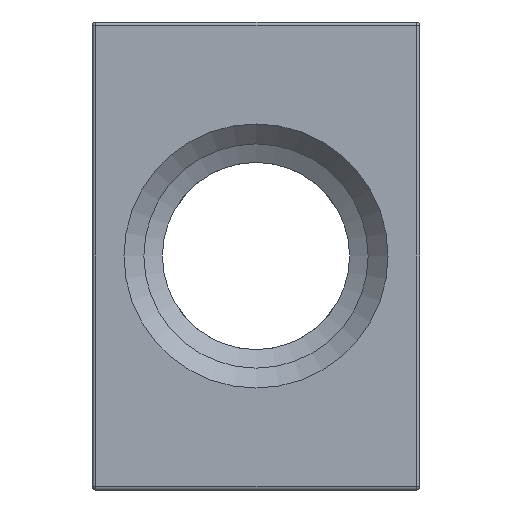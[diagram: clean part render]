
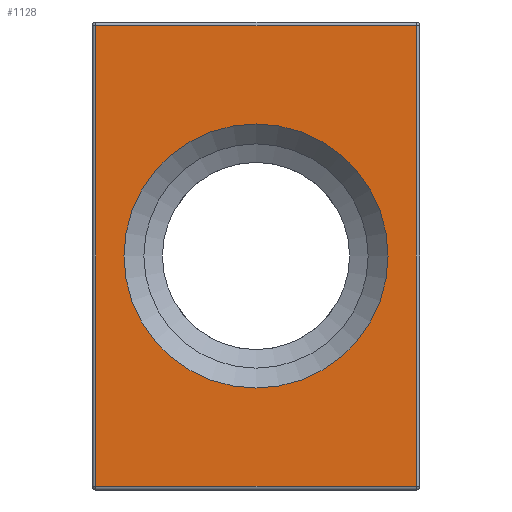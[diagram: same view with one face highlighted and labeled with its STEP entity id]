
A CAD part, left-side view. The second image highlights one B-rep face of the part: STEP entity #1128.
In plain terms, the highlighted planar face has unit normal (-1, 0, 0).
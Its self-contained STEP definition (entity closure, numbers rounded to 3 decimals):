
#58=FACE_BOUND('',#340,.T.);
#76=PLANE('',#1246);
#82=LINE('',#1772,#147);
#87=LINE('',#1794,#152);
#92=LINE('',#1801,#157);
#96=LINE('',#1807,#161);
#147=VECTOR('',#1404,10.);
#152=VECTOR('',#1431,10.);
#157=VECTOR('',#1440,10.);
#161=VECTOR('',#1448,10.);
#265=FACE_OUTER_BOUND('',#339,.T.);
#339=EDGE_LOOP('',(#850,#851,#852,#853));
#340=EDGE_LOOP('',(#854));
#429=CIRCLE('',#1247,11.286);
#489=VERTEX_POINT('',#1733);
#500=VERTEX_POINT('',#1760);
#503=VERTEX_POINT('',#1767);
#507=VERTEX_POINT('',#1787);
#517=VERTEX_POINT('',#1835);
#611=EDGE_CURVE('',#489,#503,#82,.T.);
#622=EDGE_CURVE('',#507,#500,#87,.T.);
#627=EDGE_CURVE('',#503,#507,#92,.T.);
#631=EDGE_CURVE('',#500,#489,#96,.T.);
#645=EDGE_CURVE('',#517,#517,#429,.T.);
#850=ORIENTED_EDGE('',*,*,#622,.F.);
#851=ORIENTED_EDGE('',*,*,#627,.F.);
#852=ORIENTED_EDGE('',*,*,#611,.F.);
#853=ORIENTED_EDGE('',*,*,#631,.F.);
#854=ORIENTED_EDGE('',*,*,#645,.F.);
#1128=ADVANCED_FACE('',(#265,#58),#76,.T.);
#1246=AXIS2_PLACEMENT_3D('',#1834,#1481,#1482);
#1247=AXIS2_PLACEMENT_3D('',#1836,#1483,#1484);
#1404=DIRECTION('',(0.,1.,0.));
#1431=DIRECTION('',(0.,-1.,0.));
#1440=DIRECTION('',(0.,0.,1.));
#1448=DIRECTION('',(0.,0.,-1.));
#1481=DIRECTION('center_axis',(-1.,0.,0.));
#1482=DIRECTION('ref_axis',(0.,0.,1.));
#1483=DIRECTION('center_axis',(-1.,0.,0.));
#1484=DIRECTION('ref_axis',(0.,1.,0.));
#1733=CARTESIAN_POINT('',(-85.,-13.7,-19.7));
#1760=CARTESIAN_POINT('',(-85.,-13.7,19.7));
#1767=CARTESIAN_POINT('',(-85.,13.7,-19.7));
#1772=CARTESIAN_POINT('',(-85.,0.,-19.7));
#1787=CARTESIAN_POINT('',(-85.,13.7,19.7));
#1794=CARTESIAN_POINT('',(-85.,0.,19.7));
#1801=CARTESIAN_POINT('',(-85.,13.7,-10.));
#1807=CARTESIAN_POINT('',(-85.,-13.7,-10.));
#1834=CARTESIAN_POINT('Origin',(-85.,0.,-20.));
#1835=CARTESIAN_POINT('',(-85.,-11.286,0.));
#1836=CARTESIAN_POINT('Origin',(-85.,0.,0.));
